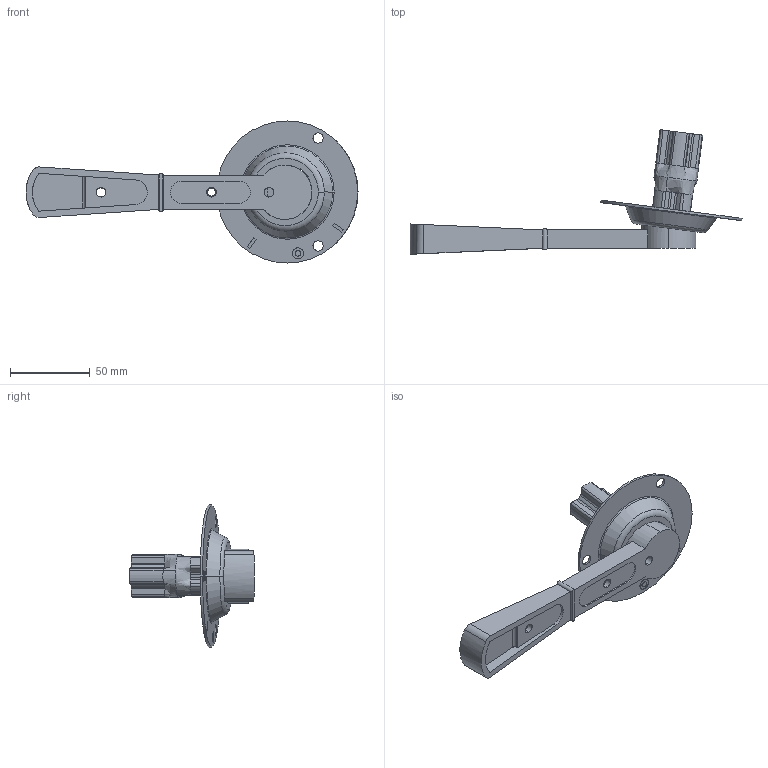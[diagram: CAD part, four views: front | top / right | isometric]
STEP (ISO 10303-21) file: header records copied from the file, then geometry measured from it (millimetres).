
FILE_DESCRIPTION (( 'STEP AP203' ), '1' );
FILE_NAME ('Ðóêîÿòêà áîêîâàÿ ñìåùåííàÿ ÂÐ32 (100-400À).STEP', '2014-10-29T08:58:23', ( 'admin' ), ( '' ), 'SwSTEP 2.0', 'SolidWorks 2007', '' );
FILE_SCHEMA (( 'CONFIG_CONTROL_DESIGN' ));
Length unit declared in the file: millimetre
Products named in the file (1): Ðóêîÿòêà áîêîâàÿ ñìåùåííàÿ ÂÐ32 (100-400À)
Bounding box: 207.92 x 78.01 x 89 mm (x, y, z)
Surface area: 41235.7 mm2 (no closed solid volume)
Topology: 0 solids, 6 shells, 219 faces, 695 edges, 485 vertices
Faces by surface type: plane 79, cylinder 76, bspline 52, torus 8, cone 4
Entity records: 17767 total; most frequent: CARTESIAN_POINT 12053, ORIENTED_EDGE 1247, DIRECTION 960, EDGE_CURVE 695, VERTEX_POINT 485, LINE 320, AXIS2_PLACEMENT_3D 320, VECTOR 320
